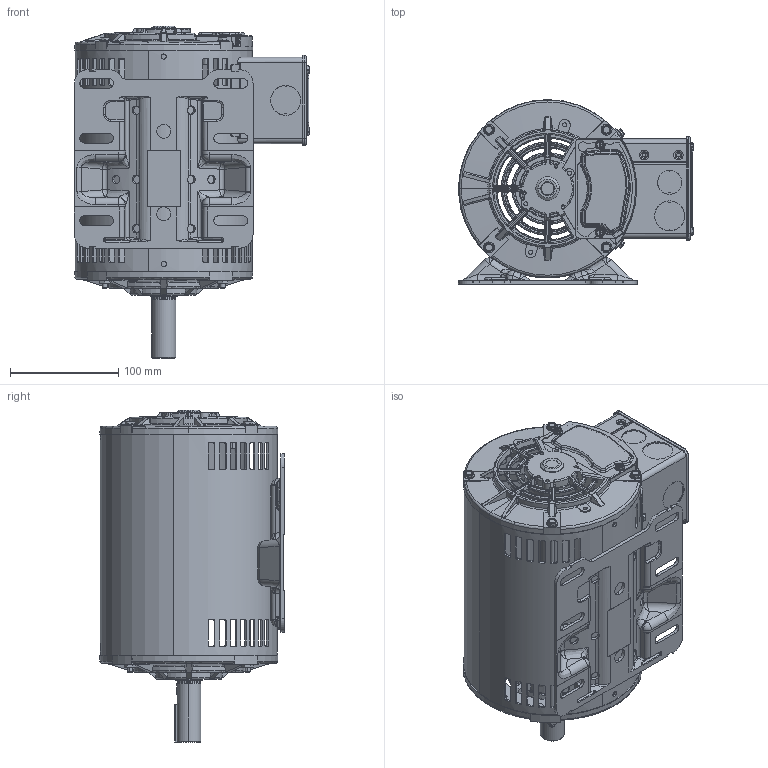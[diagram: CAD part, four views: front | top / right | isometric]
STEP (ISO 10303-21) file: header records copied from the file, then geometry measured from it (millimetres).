
FILE_DESCRIPTION (( 'STEP AP203' ), '1' );
FILE_NAME ('104452-806_RevD.STEP', '2018-02-28T08:58:59', ( '' ), ( '' ), 'SwSTEP 2.0', 'SolidWorks 2015', '' );
FILE_SCHEMA (( 'CONFIG_CONTROL_DESIGN' ));
Products named in the file (1): 104452-806_RevD
Bounding box: 217.4 x 170.59 x 306.95 mm (x, y, z)
Volume: 742642.7 mm3; surface area: 530323.6 mm2
Topology: 27 solids, 27 shells, 3626 faces, 9601 edges, 5990 vertices
Faces by surface type: plane 1231, cylinder 816, bspline 732, cone 483, torus 343, sphere 21
Entity records: 138890 total; most frequent: CARTESIAN_POINT 56837, ORIENTED_EDGE 19060, DIRECTION 14845, EDGE_CURVE 9530, VERTEX_POINT 5988, AXIS2_PLACEMENT_3D 5956, EDGE_LOOP 3884, ADVANCED_FACE 3626
